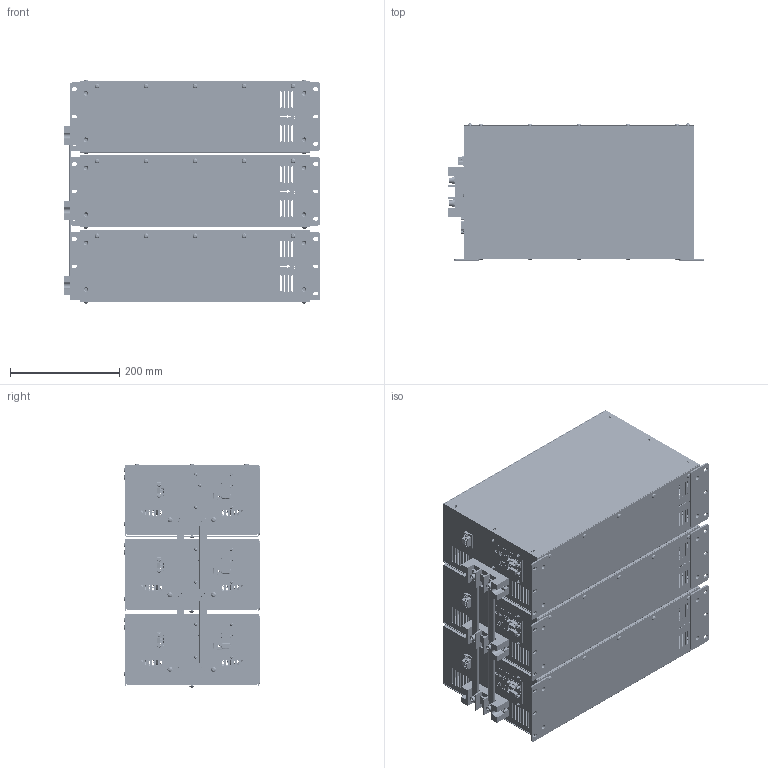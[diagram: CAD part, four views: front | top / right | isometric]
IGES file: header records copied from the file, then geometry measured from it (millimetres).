
Global section: file name: $VX3COM BUSBAR ASS'Y(VERTICAL)_Shrinkwrap_1; native system: Autodesk Inventor 2021; preprocessor: unknown; author: eunsol jang; date: 20240709.163520; units: inch
Bounding box: 468 x 250.54 x 408.59 mm (x, y, z)
Volume: 2108296.1 mm3; surface area: 2661366 mm2
Topology: 21 solids, 21 shells, 13836 faces, 41174 edges, 28539 vertices
Faces by surface type: bspline 13836
